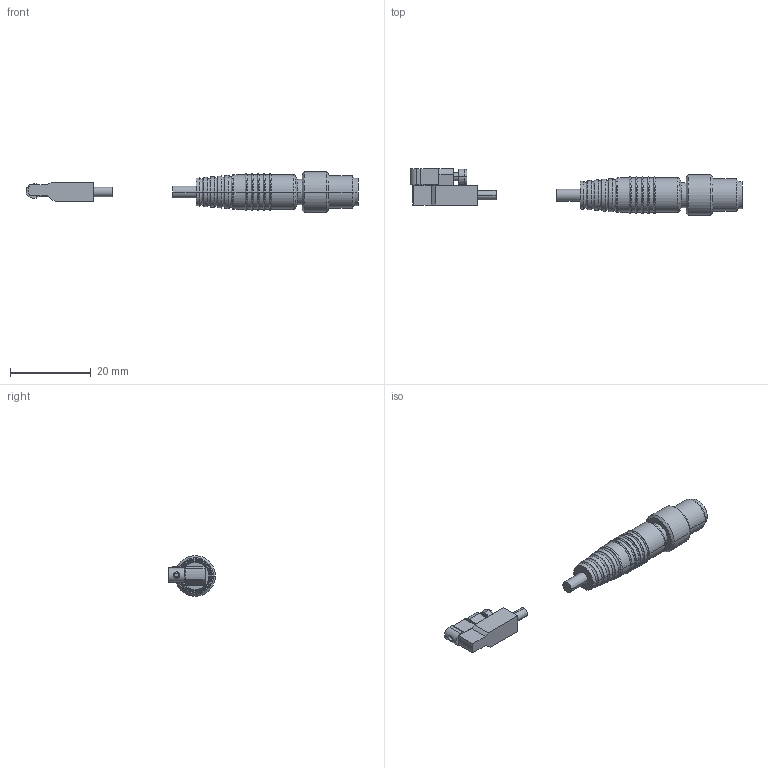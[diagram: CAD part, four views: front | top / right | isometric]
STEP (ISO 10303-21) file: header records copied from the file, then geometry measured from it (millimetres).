
FILE_DESCRIPTION (( 'STEP AP203' ), '1' );
FILE_NAME ('15000035.STEP', '2019-02-15T13:47:38', ( '' ), ( '' ), 'SwSTEP 2.0', 'SolidWorks 2015', '' );
FILE_SCHEMA (( 'CONFIG_CONTROL_DESIGN' ));
Length unit declared in the file: millimetre
Products named in the file (1): 15000035
Bounding box: 82.08 x 11.55 x 10 mm (x, y, z)
Volume: 2605 mm3; surface area: 2104.5 mm2
Topology: 3 solids, 3 shells, 163 faces, 359 edges, 218 vertices
Faces by surface type: cylinder 56, plane 43, bspline 38, cone 24, torus 2
Entity records: 5517 total; most frequent: CARTESIAN_POINT 1938, DIRECTION 764, ORIENTED_EDGE 706, EDGE_CURVE 353, AXIS2_PLACEMENT_3D 326, VERTEX_POINT 218, CIRCLE 200, EDGE_LOOP 187
